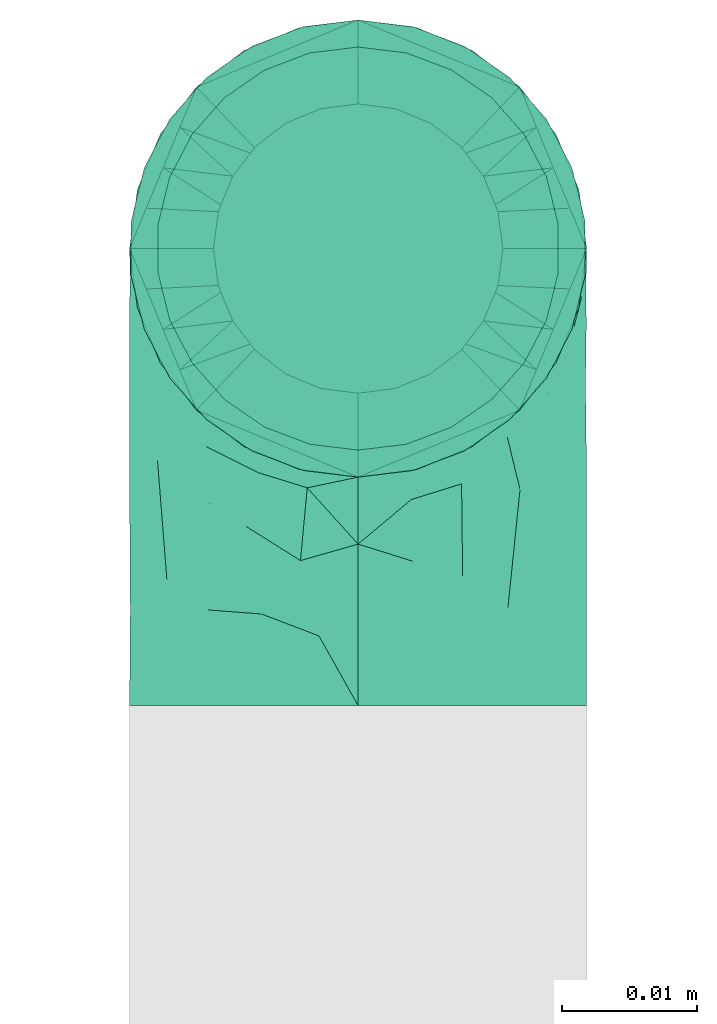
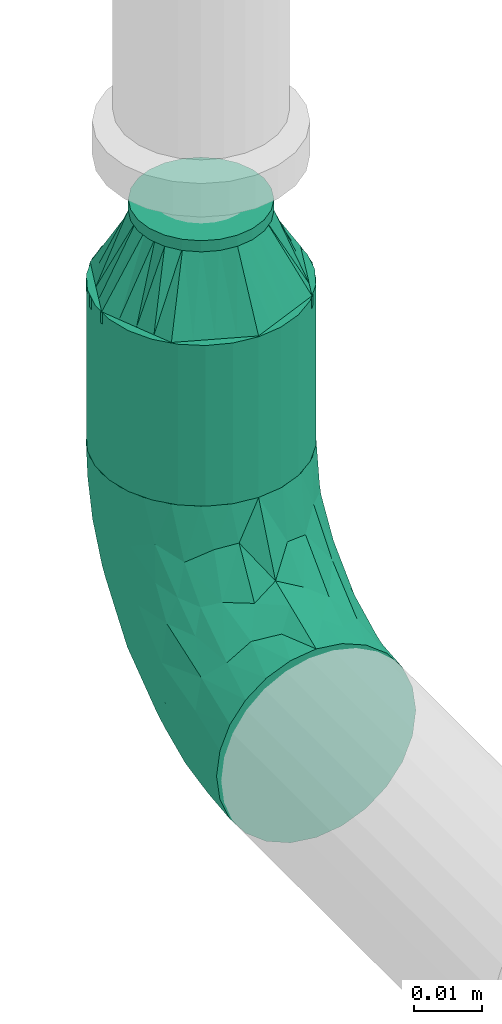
# One storey, part 22 of 31: 2 flow fittings, 1 flow segment.
"""IFC2X3 building model written with IfcOpenShell, lengths in millimetres."""

from ifc_helpers import new_model, entity, si_unit, converted_unit, derived_unit, direction, frame, origin_with_axes, origin_2d_with_axis, place, context, subcontext, project, spatial, hollow_circle, extrude, open_shell, surface_model, source, transform, mapped, type_object, element, save


model = new_model("IFC2X3")

# Units and contexts
model_context = context("Model", 3, precision=0.01, world=frame((0.0, 4.29681676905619e-09, 0.0)), true_north=direction((4.01073788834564e-13, 1.0)))
plan_context = context("Plan", 3, precision=0.01, world=frame((0.0, 4.29681676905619e-09, 0.0)), true_north=direction((4.01073788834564e-13, 1.0)))
body_context = subcontext(model_context, "Body", "Model", "MODEL_VIEW")
ifc_project = project(units=[converted_unit("PLANEANGLEUNIT", "DEGREE", entity("IfcPositiveLengthMeasure", 0.0174532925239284), si_unit("PLANEANGLEUNIT", "RADIAN"), dimensions=[0, 0, 0, 0, 0, 0, 0]), si_unit("AREAUNIT", "SQUARE_METRE"), si_unit("LENGTHUNIT", "METRE", prefix="MILLI"), si_unit("MASSUNIT", "GRAM", prefix="KILO"), si_unit("POWERUNIT", "WATT"), si_unit("PRESSUREUNIT", "PASCAL", prefix="KILO"), si_unit("FORCEUNIT", "NEWTON", prefix="KILO"), si_unit("ELECTRICVOLTAGEUNIT", "VOLT"), si_unit("ELECTRICCURRENTUNIT", "AMPERE"), si_unit("THERMODYNAMICTEMPERATUREUNIT", "DEGREE_CELSIUS"), si_unit("TIMEUNIT", "SECOND"), si_unit("VOLUMEUNIT", "CUBIC_METRE"), derived_unit("LINEARVELOCITYUNIT", [(si_unit("LENGTHUNIT", "METRE"), 1), (si_unit("TIMEUNIT", "SECOND"), -1)]), derived_unit("VOLUMETRICFLOWRATEUNIT", [(si_unit("VOLUMEUNIT", "CUBIC_METRE"), 1), (si_unit("TIMEUNIT", "SECOND"), -1)]), derived_unit("THERMALTRANSMITTANCEUNIT", [(si_unit("POWERUNIT", "WATT"), 1), (si_unit("THERMODYNAMICTEMPERATUREUNIT", "KELVIN"), -1), (si_unit("AREAUNIT", "SQUARE_METRE"), -1)]), derived_unit("SOUNDPRESSUREUNIT", [(si_unit("PRESSUREUNIT", "PASCAL"), 1)])], contexts=[model_context, plan_context])

# Site, building, storey
site_placement = place(None, frame((0.0, -4.29681676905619e-09, 0.0), z_axis=(0.0, 0.0, 1.0), x_axis=(1.0, 0.0, 0.0)))
site = spatial("IfcSite", under=ifc_project, at=site_placement, CompositionType="ELEMENT")
building_placement = place(site_placement, frame((0.0, 4.29681676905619e-09, 0.0), z_axis=(0.0, 0.0, 1.0), x_axis=(1.0, 0.0, 0.0)))
building = spatial("IfcBuilding", under=site, at=building_placement, Name="mc-building", CompositionType="ELEMENT")
storey_placement = place(building_placement, frame((0.0, 0.0, 200300.0), z_axis=(0.0, 0.0, 1.0), x_axis=(1.0, 0.0, 0.0)))
storey = spatial("IfcBuildingStorey", under=building, at=storey_placement, Name="Nivå C", CompositionType="ELEMENT", Elevation=200300.0)

# Flow fittings
pipe_fitting_type_1 = type_object("IfcPipeFittingType", Name="magi_pipe_fe_reducer_centric_short_NOR", PredefinedType="TRANSITION")
shared_shape_1 = source(origin_with_axes(), body_context, "Body", "SurfaceModel", [
    surface_model("IfcShellBasedSurfaceModel", [(14.4, 5.35, -9.26647), (14.4, 0.0, -10.7), (14.4, 2.76936, -10.33541), (14.4, 10.33541, -2.76936), (14.4, 7.56604, -7.56604), (14.4, -10.33541, -2.76936), (14.4, 9.26647, -5.35), (14.4, 0.0, 10.7), (14.4, -5.35, -9.26647), (14.4, -2.76936, -10.33541), (14.4, -7.56604, -7.56604), (14.4, -9.26647, -5.35), (14.4, 10.7, 0.0), (14.4, 10.33541, 2.76936), (14.4, 9.26647, 5.35), (14.4, 7.56604, 7.56604), (14.4, 2.76936, 10.33541), (14.4, 5.35, 9.26647), (14.4, -10.33541, 2.76936), (14.4, -7.56604, 7.56604), (14.4, -9.26647, 5.35), (14.4, -10.7, 0.0), (14.4, -2.76936, 10.33541), (14.4, -5.35, 9.26647), (12.4, 2.76936, 10.33541), (12.4, -10.33541, -2.76936), (12.4, 0.0, 10.7), (12.4, 5.35, 9.26647), (12.4, 7.56604, 7.56604), (12.4, 9.26647, 5.35), (12.4, 10.33541, 2.76936), (12.4, -10.33541, 2.76936), (12.4, -2.76936, 10.33541), (12.4, -7.56604, 7.56604), (12.4, -5.35, 9.26647), (12.4, -9.26647, 5.35), (12.4, -10.7, 0.0), (12.4, 10.33541, -2.76936), (12.4, 5.35, -9.26647), (12.4, 9.26647, -5.35), (12.4, 7.56604, -7.56604), (12.4, 2.76936, -10.33541), (12.4, -9.26647, -5.35), (12.4, -5.35, -9.26647), (12.4, -7.56604, -7.56604), (12.4, 0.0, -10.7), (12.4, -2.76936, -10.33541), (12.4, 10.7, 0.0), (-2.0, 11.9501, 11.9501), (-2.0, 0.0, 16.9), (-2.0, 4.37404, 16.32415), (-2.0, 8.45, 14.63583), (-2.0, 14.63583, 8.45), (-2.0, 16.32415, 4.37404), (-2.0, -16.32415, 4.37404), (-2.0, -8.45, 14.63583), (-2.0, -14.63583, 8.45), (-2.0, -11.9501, 11.9501), (-2.0, -4.37404, 16.32415), (-2.0, -16.32415, -4.37404), (-2.0, -16.9, 0.0), (-2.0, -8.45, -14.63583), (-2.0, 16.32415, -4.37404), (-2.0, 11.9501, -11.9501), (-2.0, 14.63583, -8.45), (-2.0, 8.45, -14.63583), (-2.0, 4.37404, -16.32415), (-2.0, 0.0, -16.9), (-2.0, -11.9501, -11.9501), (-2.0, -14.63583, -8.45), (-2.0, -4.37404, -16.32415), (-2.0, 16.9, 0.0), (0.0, 4.37404, -16.32415), (0.0, 8.45, -14.63583), (0.0, 11.9501, -11.9501), (0.0, 0.0, -16.9), (0.0, 16.32415, -4.37404), (0.0, 16.32415, 4.37404), (0.0, 14.63583, -8.45), (0.0, -8.45, -14.63583), (0.0, -4.37404, -16.32415), (0.0, -11.9501, -11.9501), (0.0, -16.32415, -4.37404), (0.0, -14.63583, -8.45), (0.0, -16.32415, 4.37404), (0.0, 16.9, 0.0), (0.0, 14.63583, 8.45), (0.0, 11.9501, 11.9501), (0.0, 4.37404, 16.32415), (0.0, 8.45, 14.63583), (0.0, 0.0, 16.9), (0.0, -14.63583, 8.45), (0.0, -16.9, 0.0), (0.0, -8.45, 14.63583), (0.0, -11.9501, 11.9501), (0.0, -4.37404, 16.32415), (12.4, 9.3625, -2.31662), (0.0, 14.42505, -5.97505), (0.0, 15.66253, -2.98753), (12.4, -6.6875, -6.94985), (0.0, -13.18758, -8.96258), (0.0, 2.98753, -15.66253), (12.4, 0.0, -9.26647), (12.4, 6.6875, -6.94985), (0.0, 8.96258, -13.18758), (12.4, -9.3625, -2.31662), (0.0, -15.66253, -2.98753), (0.0, -14.42505, -5.97505), (0.0, 5.97505, -14.42505), (0.0, -2.98753, -15.66253), (0.0, -8.96258, -13.18758), (0.0, 13.18758, -8.96258), (12.4, 8.025, -4.63324), (12.4, -2.675, -9.26647), (12.4, 2.675, -9.26647), (0.0, -5.97505, -14.42505), (12.4, -8.025, -4.63324), (12.4, -9.3625, 2.31662), (0.0, -14.42505, 5.97505), (0.0, -15.66253, 2.98753), (12.4, 6.6875, 6.94985), (0.0, 13.18758, 8.96258), (0.0, -2.98753, 15.66253), (12.4, 0.0, 9.26647), (12.4, -6.6875, 6.94985), (0.0, -8.96258, 13.18758), (12.4, 9.3625, 2.31662), (0.0, 15.66253, 2.98753), (0.0, 14.42505, 5.97505), (0.0, -5.97505, 14.42505), (0.0, 2.98753, 15.66253), (0.0, 8.96258, 13.18758), (0.0, -13.18758, 8.96258), (12.4, -8.025, 4.63324), (12.4, 2.675, 9.26647), (12.4, -2.675, 9.26647), (0.0, 5.97505, 14.42505), (12.4, 8.025, 4.63324)], [open_shell([[[0, 1, 2]], [[3, 0, 4]], [[5, 0, 3]], [[3, 4, 6]], [[7, 5, 3]], [[1, 8, 9]], [[1, 0, 8]], [[10, 5, 11]], [[5, 10, 8]], [[0, 5, 8]], [[3, 12, 13]], [[13, 14, 15]], [[13, 15, 16]], [[7, 3, 16]], [[16, 15, 17]], [[7, 18, 5]], [[18, 19, 20]], [[21, 5, 18]], [[19, 22, 23]], [[22, 19, 18]], [[7, 22, 18]], [[13, 16, 3]], [[24, 25, 26]], [[27, 25, 24]], [[28, 29, 30]], [[28, 25, 27]], [[31, 26, 25]], [[32, 33, 34]], [[33, 32, 31]], [[33, 31, 35]], [[32, 26, 31]], [[31, 25, 36]], [[30, 37, 28]], [[25, 28, 37]], [[38, 37, 39]], [[37, 38, 25]], [[38, 39, 40]], [[41, 25, 38]], [[42, 43, 44]], [[43, 42, 25]], [[43, 45, 46]], [[43, 25, 41]], [[41, 45, 43]], [[37, 30, 47]], [[25, 5, 36]], [[42, 11, 25]], [[8, 44, 43]], [[42, 44, 10]], [[9, 43, 46]], [[25, 11, 5]], [[5, 21, 36]], [[9, 8, 43]], [[10, 44, 8]], [[10, 11, 42]], [[1, 9, 46]], [[46, 45, 1]], [[41, 2, 45]], [[38, 0, 41]], [[6, 40, 39]], [[38, 40, 4]], [[3, 39, 37]], [[38, 4, 0]], [[0, 2, 41]], [[12, 3, 37]], [[6, 39, 3]], [[6, 4, 40]], [[47, 12, 37]], [[45, 2, 1]], [[30, 13, 47]], [[29, 14, 30]], [[17, 28, 27]], [[29, 28, 15]], [[16, 27, 24]], [[30, 14, 13]], [[13, 12, 47]], [[16, 17, 27]], [[15, 28, 17]], [[15, 14, 29]], [[7, 16, 24]], [[24, 26, 7]], [[32, 22, 26]], [[34, 23, 32]], [[20, 33, 35]], [[34, 33, 19]], [[18, 35, 31]], [[34, 19, 23]], [[23, 22, 32]], [[21, 18, 31]], [[20, 35, 18]], [[20, 19, 33]], [[36, 21, 31]], [[26, 22, 7]], [[48, 49, 50]], [[48, 50, 51]], [[48, 52, 53]], [[48, 53, 49]], [[49, 53, 54]], [[55, 56, 57]], [[55, 58, 49]], [[56, 55, 49]], [[49, 54, 56]], [[54, 59, 60]], [[54, 53, 61]], [[53, 62, 63]], [[63, 62, 64]], [[63, 65, 66]], [[61, 53, 63]], [[67, 63, 66]], [[59, 68, 69]], [[68, 59, 61]], [[61, 67, 70]], [[59, 54, 61]], [[63, 67, 61]], [[53, 71, 62]], [[72, 73, 74]], [[75, 72, 74]], [[74, 76, 77]], [[76, 74, 78]], [[74, 77, 79]], [[75, 79, 80]], [[75, 74, 79]], [[81, 82, 83]], [[82, 81, 79]], [[79, 84, 82]], [[77, 76, 85]], [[77, 86, 87]], [[77, 87, 88]], [[88, 84, 79]], [[88, 87, 89]], [[84, 88, 90]], [[90, 91, 84]], [[92, 82, 84]], [[91, 93, 94]], [[91, 90, 93]], [[93, 90, 95]], [[79, 77, 88]], [[59, 82, 60]], [[69, 83, 59]], [[79, 68, 61]], [[69, 68, 81]], [[80, 61, 70]], [[59, 83, 82]], [[82, 92, 60]], [[80, 79, 61]], [[81, 68, 79]], [[81, 83, 69]], [[75, 80, 70]], [[70, 67, 75]], [[66, 72, 67]], [[65, 73, 66]], [[78, 63, 64]], [[65, 63, 74]], [[76, 64, 62]], [[65, 74, 73]], [[73, 72, 66]], [[85, 76, 62]], [[78, 64, 76]], [[78, 74, 63]], [[71, 85, 62]], [[67, 72, 75]], [[53, 77, 71]], [[52, 86, 53]], [[89, 48, 51]], [[52, 48, 87]], [[88, 51, 50]], [[53, 86, 77]], [[77, 85, 71]], [[88, 89, 51]], [[87, 48, 89]], [[87, 86, 52]], [[90, 88, 50]], [[50, 49, 90]], [[58, 95, 49]], [[55, 93, 58]], [[91, 57, 56]], [[55, 57, 94]], [[84, 56, 54]], [[55, 94, 93]], [[93, 95, 58]], [[92, 84, 54]], [[91, 56, 84]], [[91, 94, 57]], [[60, 92, 54]], [[49, 95, 90]], [[27, 34, 47]], [[47, 34, 43]], [[43, 38, 47]], [[43, 34, 36]], [[90, 87, 94]], [[92, 94, 87]], [[87, 74, 92]], [[75, 92, 74]], [[81, 92, 75]], [[74, 87, 85]], [[96, 97, 98]], [[81, 99, 100]], [[101, 102, 75]], [[98, 85, 47]], [[74, 103, 104]], [[104, 103, 38]], [[105, 106, 107]], [[38, 108, 104]], [[102, 109, 75]], [[110, 99, 81]], [[47, 96, 98]], [[103, 111, 112]], [[109, 102, 113]], [[36, 92, 106]], [[102, 101, 114]], [[110, 115, 43]], [[96, 112, 97]], [[107, 116, 105]], [[36, 106, 105]], [[113, 115, 109]], [[43, 115, 113]], [[116, 107, 100]], [[108, 38, 114]], [[111, 103, 74]], [[111, 97, 112]], [[99, 110, 43]], [[116, 100, 99]], [[101, 108, 114]], [[117, 118, 119]], [[87, 120, 121]], [[122, 123, 90]], [[119, 92, 36]], [[94, 124, 125]], [[125, 124, 34]], [[126, 127, 128]], [[34, 129, 125]], [[123, 130, 90]], [[131, 120, 87]], [[36, 117, 119]], [[124, 132, 133]], [[130, 123, 134]], [[47, 85, 127]], [[123, 122, 135]], [[131, 136, 27]], [[117, 133, 118]], [[128, 137, 126]], [[47, 127, 126]], [[134, 136, 130]], [[27, 136, 134]], [[137, 128, 121]], [[129, 34, 135]], [[132, 124, 94]], [[132, 118, 133]], [[120, 131, 27]], [[137, 121, 120]], [[122, 129, 135]]])]),
])
flow_fitting_1_placement = place(storey_placement, frame((608500.0, 403933.19532, 2962.64799999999), z_axis=(-1.0, 0.0, 0.0), x_axis=(0.0, 0.0, 1.0)))
element("IfcFlowFitting", 1, at=flow_fitting_1_placement, inside=storey, type_object=pipe_fitting_type_1, Name="magi_pipe_fe_reducer_centric_short_NOR", context=body_context, shape_type="MappedRepresentation", body=[
    mapped(shared_shape_1, transform((0.0, 0.0, 0.0), scale=1.0)),
])
pipe_fitting_type_2 = type_object("IfcPipeFittingType", Name="magi_pipe_fe_elbow_short_001", PredefinedType="BEND")
shared_shape_2 = source(origin_with_axes(), body_context, "Body", "SurfaceModel", [
    surface_model("IfcShellBasedSurfaceModel", [(-33.8, 8.45, -14.63583), (-33.8, 4.37404, -16.32415), (-33.8, 11.9501, -11.9501), (-33.8, -11.9501, -11.9501), (-33.8, -14.63583, -8.45), (-33.8, -8.45, -14.63583), (-33.8, 0.0, -16.9), (-33.8, -4.37404, -16.32415), (-33.8, -4.37404, 16.32415), (-33.8, 0.0, 16.9), (-33.8, -8.45, 14.63583), (-33.8, 16.32415, -4.37404), (-33.8, 14.63583, -8.45), (-33.8, -16.32415, -4.37404), (-33.8, -16.9, 0.0), (-33.8, -16.32415, 4.37404), (-33.8, 11.9501, 11.9501), (-33.8, 14.63583, 8.45), (-33.8, 16.32415, 4.37404), (-33.8, 4.37404, 16.32415), (-33.8, 8.45, 14.63583), (-33.8, -14.63583, 8.45), (-33.8, -11.9501, 11.9501), (-33.8, 16.9, 0.0), (-11.9501, 33.8, -11.9501), (0.0, 33.8, -16.9), (-4.37404, 33.8, -16.32415), (-8.45, 33.8, -14.63583), (-14.63583, 33.8, -8.45), (-16.32415, 33.8, -4.37404), (14.63583, 33.8, -8.45), (8.45, 33.8, 14.63583), (16.32415, 33.8, -4.37404), (8.45, 33.8, -14.63583), (11.9501, 33.8, -11.9501), (4.37404, 33.8, -16.32415), (16.32415, 33.8, 4.37404), (16.9, 33.8, 0.0), (-11.9501, 33.8, 11.9501), (-16.32415, 33.8, 4.37404), (-14.63583, 33.8, 8.45), (-8.45, 33.8, 14.63583), (-4.37404, 33.8, 16.32415), (11.9501, 33.8, 11.9501), (14.63583, 33.8, 8.45), (0.0, 33.8, 16.9), (4.37404, 33.8, 16.32415), (-16.9, 33.8, 0.0), (-24.79389, -13.12945, 9.48721), (-22.19287, -9.75018, 12.59315), (-24.09897, -14.97035, 0.0), (-14.93934, -10.76256, 8.5297), (-22.46095, -14.75051, 5.27077), (14.75051, 22.46094, 5.27077), (11.9251, 13.23888, 4.33236), (13.04069, 14.39795, 0.0), (7.71387, 13.68847, 11.55891), (9.75018, 22.19287, 12.59315), (4.10169, 13.0571, 14.04018), (-24.84007, -6.39063, 15.2048), (-25.81779, -2.23879, 16.61097), (-23.66549, 2.59054, 16.87119), (-26.50418, 14.06512, 11.08152), (-24.21253, 17.66365, 7.72657), (-29.58514, 15.86957, 7.00283), (-6.17382, -7.5455, 0.0), (-13.23888, -11.9251, 4.33236), (-14.39795, -13.04069, 0.0), (-17.81434, 18.87373, 11.97104), (-6.30846, 29.15138, 15.82987), (-2.31622, 25.28002, 16.85849), (-29.23923, 10.23435, 13.77053), (-1.45439, -2.85688, 7.61475), (-0.28326, 0.34872, 10.09509), (-5.74484, -4.04709, 10.4122), (-4.41137, 11.31918, 16.59407), (-8.39727, 3.10034, 15.7812), (-1.72649, 9.1306, 15.53089), (-17.39909, 24.75344, 7.64977), (-26.19233, 20.0512, 0.0), (-28.14518, 17.29657, 4.25857), (-26.05147, 6.6281, 15.96447), (-5.87354, 16.61944, 16.86968), (-12.51807, 12.51807, 16.48937), (-10.06312, 7.38516, 16.81295), (-3.01882, 3.01882, 13.81718), (-13.0571, -4.10169, 14.04018), (-16.82553, -0.15166, 16.38038), (10.76256, 14.93934, 8.5297), (13.12945, 24.79389, 9.48721), (6.39063, 24.84007, 15.2048), (2.23879, 25.81779, 16.61097), (-13.68847, -7.71387, 11.55891), (14.97035, 24.09897, 0.0), (-7.30894, 22.89991, 16.09489), (-10.67958, 26.17414, 14.008), (-12.78295, 18.26924, 15.06066), (-13.88562, 22.45231, 12.93244), (-18.04944, 15.16501, 14.04434), (-23.11658, 20.08178, 4.02986), (-21.84989, 21.84989, 0.0), (-18.55817, 25.48277, 3.93065), (-13.95142, 26.94732, 11.03289), (-18.57098, 7.23906, 16.59756), (-16.58335, 4.14122, 16.89279), (-17.96666, 11.46709, 15.63151), (-9.84453, 17.54304, 16.18938), (0.15166, 16.82553, 16.38038), (-23.27207, 11.47201, 14.23154), (3.84842, 5.86994, 10.70473), (-8.0212, -7.54413, 7.93275), (1.00345, -2.19508, 4.57414), (5.13203, 3.01004, 5.90201), (5.24161, 1.7543, 2.53265), (8.70457, 7.04947, 3.99182), (-20.0512, 26.19233, 0.0), (8.4852, 8.76699, 7.09296), (-4.55488, -6.72064, 4.90681), (2.05031, -2.05031, 0.0), (7.5455, 6.17382, 0.0), (-26.75399, 2.1369, -16.845), (-14.61995, 24.73803, -11.27736), (-28.45274, -13.45335, -9.81895), (-26.00469, 6.63555, -15.96645), (-23.06726, 20.04573, -4.26202), (-13.80647, -4.26506, -14.17873), (-14.67501, -0.21081, -16.07388), (-6.7902, -0.2828, -13.8478), (-24.53586, 11.08096, -14.13417), (-26.72048, 14.00837, -11.05776), (10.0967, 24.44989, -12.75976), (5.83237, 21.40218, -15.03047), (6.66249, 28.54238, -15.38093), (-20.38182, 15.48705, -12.74596), (12.53268, 21.23441, -9.15363), (12.54494, 15.67504, -5.54878), (9.7522, 12.89279, -8.66343), (-15.65186, 19.64213, -13.01327), (-12.03528, 20.66498, -14.67665), (-15.61907, 15.61906, -14.83879), (-25.56551, -15.26206, 0.0), (-24.65452, -15.12934, -5.50955), (13.45335, 28.45274, -9.81895), (15.12934, 24.65452, -5.50955), (-7.35442, -8.31014, -5.65563), (-15.67504, -12.54494, -5.54878), (-24.44989, -10.0967, -12.75976), (0.16522, 0.41303, -9.71728), (-5.70658, -5.33066, -8.89288), (-5.13869, -2.37198, -11.53565), (-21.23441, -12.53268, -9.15363), (0.71146, 7.93863, -14.09382), (0.21081, 14.67501, -16.07388), (3.49291, 14.42772, -14.76381), (-24.89911, -2.13088, -16.591), (-28.54238, -6.66249, -15.38093), (-18.44386, -7.71663, -13.26957), (2.13088, 24.89911, -16.591), (-28.64342, 17.44413, -2.89318), (1.70017, -1.28722, -5.09504), (-16.57067, 26.81947, -7.36596), (-17.69055, 27.4263, -3.76405), (-12.89279, -9.7522, -8.66343), (-5.96611, 5.96611, -15.95814), (-20.53709, 20.09345, -8.28985), (-2.1369, 26.75399, -16.845), (-6.89872, 24.58781, -16.02578), (-10.60739, 26.53157, -13.98044), (-21.40218, -5.83237, -15.03047), (2.93192, 5.89627, -11.55917), (6.89393, 12.61842, -11.82233), (5.58056, 5.95325, -8.79455), (-3.99512, 18.61798, -16.89635), (8.31014, 7.35442, -5.65563), (-9.1383, 9.86148, -16.89041), (-9.99983, 16.02119, -16.39699), (-16.68576, 9.78031, -16.34199), (-27.01915, 16.61158, -7.12979), (15.26206, 25.56551, 0.0), (-18.61798, 3.99512, -16.89635), (-19.37495, 27.82495, 0.0), (-12.61842, -6.89393, -11.82233), (-18.84705, 19.14018, -10.96545)], [open_shell([[[0, 1, 2]], [[3, 4, 5]], [[6, 7, 5]], [[8, 9, 10]], [[1, 6, 2]], [[11, 12, 2]], [[4, 2, 6]], [[2, 13, 10]], [[5, 4, 6]], [[2, 4, 13]], [[14, 15, 13]], [[11, 2, 16]], [[11, 17, 18]], [[11, 16, 17]], [[19, 20, 16]], [[16, 2, 10]], [[19, 16, 10]], [[21, 22, 15]], [[22, 13, 15]], [[22, 10, 13]], [[10, 9, 19]], [[11, 18, 23]], [[24, 25, 26]], [[24, 26, 27]], [[24, 28, 29]], [[25, 24, 30]], [[31, 32, 24]], [[33, 30, 34]], [[33, 35, 25]], [[25, 30, 33]], [[32, 30, 24]], [[32, 36, 37]], [[38, 24, 29]], [[39, 40, 29]], [[40, 38, 29]], [[38, 41, 42]], [[38, 31, 24]], [[31, 38, 42]], [[36, 43, 44]], [[36, 32, 43]], [[31, 45, 46]], [[32, 31, 43]], [[42, 45, 31]], [[39, 29, 47]], [[22, 48, 49]], [[15, 14, 50]], [[51, 48, 52]], [[53, 54, 55]], [[48, 22, 21]], [[15, 52, 21]], [[56, 57, 58]], [[49, 10, 22]], [[49, 59, 10]], [[9, 60, 61]], [[62, 63, 64]], [[65, 66, 67]], [[57, 43, 31]], [[62, 68, 63]], [[42, 69, 70]], [[20, 71, 16]], [[8, 60, 9]], [[72, 73, 74]], [[75, 76, 77]], [[16, 62, 17]], [[40, 39, 78]], [[79, 23, 80]], [[64, 18, 17]], [[9, 61, 19]], [[19, 81, 20]], [[82, 83, 84]], [[74, 85, 86]], [[59, 86, 87]], [[88, 89, 57]], [[90, 31, 46]], [[44, 53, 36]], [[46, 45, 91]], [[54, 53, 88]], [[44, 89, 53]], [[92, 86, 49]], [[89, 44, 43]], [[10, 59, 8]], [[53, 55, 93]], [[93, 36, 53]], [[66, 52, 67]], [[94, 82, 70]], [[95, 96, 94]], [[97, 98, 96]], [[79, 99, 100]], [[41, 38, 95]], [[101, 100, 99]], [[68, 78, 63]], [[42, 41, 69]], [[23, 18, 80]], [[95, 94, 69]], [[78, 101, 99]], [[38, 102, 95]], [[70, 45, 42]], [[97, 95, 102]], [[15, 50, 52]], [[90, 57, 31]], [[57, 90, 58]], [[81, 19, 61]], [[103, 104, 84]], [[105, 81, 103]], [[38, 40, 102]], [[106, 96, 83]], [[94, 106, 82]], [[91, 70, 107]], [[71, 62, 16]], [[62, 108, 98]], [[86, 59, 49]], [[67, 52, 50]], [[60, 59, 87]], [[92, 49, 51]], [[86, 85, 76]], [[91, 90, 46]], [[37, 36, 93]], [[107, 77, 58]], [[107, 58, 90]], [[58, 85, 109]], [[110, 74, 92]], [[72, 74, 110]], [[66, 51, 52]], [[72, 111, 112]], [[113, 114, 112]], [[56, 88, 57]], [[52, 48, 21]], [[49, 48, 51]], [[57, 89, 43]], [[53, 89, 88]], [[103, 81, 61]], [[71, 81, 108]], [[18, 64, 80]], [[63, 78, 99]], [[47, 115, 101]], [[101, 115, 100]], [[40, 78, 102]], [[68, 102, 78]], [[97, 96, 95]], [[105, 98, 108]], [[103, 84, 83]], [[107, 70, 82]], [[76, 84, 87]], [[82, 84, 75]], [[70, 91, 45]], [[90, 91, 107]], [[59, 60, 8]], [[61, 60, 87]], [[73, 85, 74]], [[109, 112, 116]], [[103, 61, 104]], [[105, 103, 83]], [[96, 105, 83]], [[81, 105, 108]], [[96, 98, 105]], [[62, 98, 68]], [[61, 87, 104]], [[87, 84, 104]], [[86, 76, 87]], [[77, 76, 85]], [[58, 77, 85]], [[75, 77, 107]], [[82, 75, 107]], [[76, 75, 84]], [[81, 71, 20]], [[62, 71, 108]], [[95, 69, 41]], [[70, 69, 94]], [[62, 64, 17]], [[80, 63, 99]], [[63, 80, 64]], [[80, 99, 79]], [[66, 65, 117]], [[110, 66, 117]], [[112, 114, 116]], [[118, 117, 65]], [[110, 92, 51]], [[112, 111, 113]], [[119, 55, 54]], [[74, 86, 92]], [[58, 109, 56]], [[116, 56, 109]], [[66, 110, 51]], [[72, 110, 117]], [[111, 72, 117]], [[73, 112, 109]], [[117, 118, 111]], [[113, 111, 118]], [[118, 119, 113]], [[114, 119, 54]], [[119, 114, 113]], [[116, 54, 88]], [[54, 116, 114]], [[116, 88, 56]], [[112, 73, 72]], [[85, 73, 109]], [[78, 39, 101]], [[47, 101, 39]], [[102, 68, 97]], [[97, 68, 98]], [[82, 106, 83]], [[94, 96, 106]], [[1, 120, 6]], [[28, 24, 121]], [[3, 122, 4]], [[0, 123, 1]], [[100, 124, 79]], [[125, 126, 127]], [[128, 2, 129]], [[130, 131, 132]], [[128, 129, 133]], [[134, 135, 136]], [[137, 138, 139]], [[128, 0, 2]], [[67, 140, 141]], [[134, 142, 143]], [[141, 13, 4]], [[144, 65, 145]], [[146, 3, 5]], [[147, 148, 149]], [[145, 141, 150]], [[151, 152, 153]], [[154, 7, 6]], [[5, 155, 146]], [[150, 146, 156]], [[155, 5, 7]], [[143, 135, 134]], [[35, 157, 25]], [[23, 79, 158]], [[148, 159, 144]], [[160, 161, 29]], [[145, 162, 144]], [[163, 152, 151]], [[29, 28, 160]], [[121, 164, 160]], [[33, 34, 130]], [[25, 165, 26]], [[26, 165, 166]], [[142, 34, 30]], [[24, 27, 167]], [[124, 161, 164]], [[157, 35, 132]], [[155, 154, 168]], [[123, 0, 128]], [[169, 170, 171]], [[172, 157, 152]], [[26, 166, 27]], [[132, 35, 33]], [[142, 130, 34]], [[168, 154, 126]], [[136, 135, 173]], [[133, 137, 139]], [[2, 12, 129]], [[170, 131, 130]], [[30, 32, 143]], [[172, 174, 175]], [[176, 123, 128]], [[158, 177, 11]], [[135, 55, 119]], [[167, 27, 166]], [[175, 166, 172]], [[137, 167, 138]], [[122, 141, 4]], [[140, 14, 13]], [[32, 37, 178]], [[170, 130, 134]], [[152, 157, 131]], [[165, 157, 172]], [[153, 170, 151]], [[152, 163, 174]], [[168, 125, 156]], [[122, 146, 150]], [[120, 154, 6]], [[179, 174, 126]], [[179, 126, 154]], [[126, 163, 127]], [[162, 145, 150]], [[140, 13, 141]], [[32, 178, 143]], [[55, 143, 178]], [[177, 129, 12]], [[128, 133, 139]], [[176, 128, 139]], [[120, 123, 179]], [[121, 160, 28]], [[161, 100, 180]], [[166, 175, 138]], [[121, 24, 167]], [[161, 47, 29]], [[79, 124, 158]], [[124, 164, 177]], [[161, 124, 100]], [[136, 171, 170]], [[127, 163, 151]], [[147, 171, 159]], [[148, 144, 162]], [[127, 151, 169]], [[127, 181, 125]], [[129, 177, 164]], [[12, 11, 177]], [[159, 65, 144]], [[67, 141, 145]], [[143, 55, 135]], [[135, 119, 173]], [[123, 120, 1]], [[154, 120, 179]], [[157, 165, 25]], [[166, 165, 172]], [[172, 152, 174]], [[176, 139, 175]], [[126, 174, 163]], [[176, 174, 179]], [[174, 176, 175]], [[123, 176, 179]], [[150, 181, 162]], [[127, 149, 181]], [[181, 148, 162]], [[159, 148, 147]], [[171, 136, 173]], [[170, 134, 136]], [[159, 171, 173]], [[171, 147, 169]], [[169, 147, 149]], [[151, 170, 169]], [[164, 182, 129]], [[182, 121, 137]], [[181, 149, 148]], [[169, 149, 127]], [[182, 137, 133]], [[167, 137, 121]], [[166, 138, 167]], [[175, 139, 138]], [[129, 182, 133]], [[121, 182, 164]], [[161, 160, 164]], [[47, 161, 180]], [[177, 158, 124]], [[23, 158, 11]], [[130, 132, 33]], [[157, 132, 131]], [[143, 142, 30]], [[130, 142, 134]], [[154, 155, 7]], [[146, 155, 168]], [[146, 122, 3]], [[141, 122, 150]], [[152, 131, 153]], [[159, 119, 118]], [[67, 145, 65]], [[170, 153, 131]], [[119, 159, 173]], [[159, 118, 65]], [[156, 125, 181]], [[126, 125, 168]], [[150, 156, 181]], [[168, 156, 146]]])]),
])
flow_fitting_2_placement = place(storey_placement, frame((608500.0, 403933.19532, 2900.0), z_axis=(1.0, 0.0, 0.0), x_axis=(0.0, 1.0, 0.0)))
element("IfcFlowFitting", 2, at=flow_fitting_2_placement, inside=storey, type_object=pipe_fitting_type_2, Name="magi_pipe_fe_elbow_short_001", context=body_context, shape_type="MappedRepresentation", body=[
    mapped(shared_shape_2, transform((0.0, 0.0, 0.0), scale=1.0)),
])

# Flow segment
pipe_segment_type = type_object("IfcPipeSegmentType", Name="Stålrør normaltykke", PredefinedType="RIGIDSEGMENT")
shared_shape_3 = source(origin_with_axes(), body_context, "Body", "SweptSolid", [
    extrude(hollow_circle(Radius=16.9, WallThickness=2.0, at=origin_2d_with_axis()), frame((0.0, 0.0, 0.0), z_axis=(1.0, 0.0, 0.0), x_axis=(0.0, 1.0, 0.0)), (0.0, 0.0, 1.0), 28.8),
])
flow_segment_placement = place(storey_placement, frame((608500.0, 403933.19532, 2933.79999999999), z_axis=(-1.0, 0.0, 0.0), x_axis=(0.0, 0.0, 1.0)))
element("IfcFlowSegment", 3, at=flow_segment_placement, inside=storey, type_object=pipe_segment_type, Name="Stålrør normaltykke", context=body_context, shape_type="MappedRepresentation", body=[
    mapped(shared_shape_3, transform((0.0, 0.0, 0.0), scale=1.0)),
])

save(model, "model.ifc")
